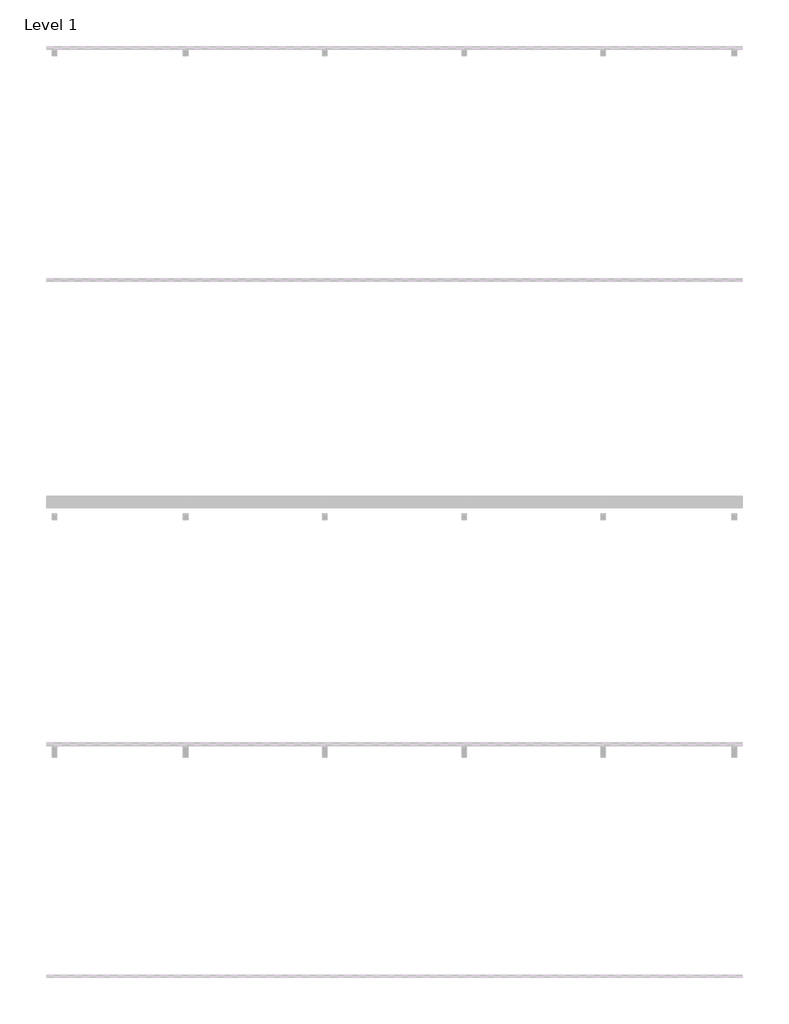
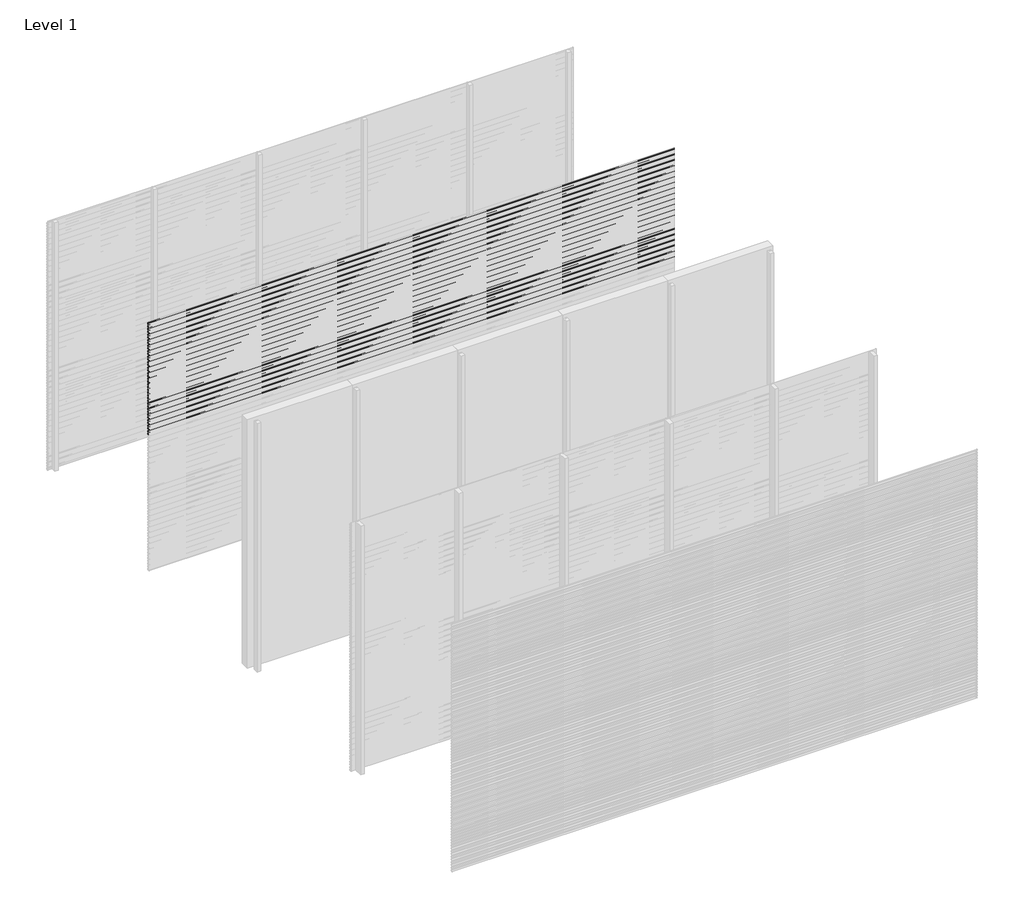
# One storey, part 33 of 77: 72 proxies.
"""IFC4 building model written with IfcOpenShell, lengths in millimetres."""

from ifc_helpers import new_model, si_unit, frame, origin, place, context, project, spatial, polyline, outline, extrude, element, save

model = new_model("IFC4")

# Units and contexts
model_context = context("Model", 3, world=origin())
ifc_project = project(units=[si_unit("LENGTHUNIT", "METRE", prefix="MILLI")], contexts=[model_context])

# Site, building, storey
site = spatial("IfcSite", under=ifc_project)
building = spatial("IfcBuilding", under=site)
storey = spatial("IfcBuildingStorey", under=building, Name="Level 1", Elevation=0.0)

# Proxies
placement = place(None, origin())
element("IfcBuildingElementProxy", 1, Name="Wall Sweeps", at=placement, inside=storey, context=model_context, shape_type="SweptSolid", body=[
    extrude(outline(polyline([(-31978.6, 2972.5359887), (-31998.0, 2983.7366691), (-31998.0, 2997.0), (-31997.0, 2997.0), (-31997.0, 2984.3191057), (-31977.6, 2973.1185105), (-31977.6, 2959.5185105), (-31978.6, 2961.0953129), (-31978.6, 2966.9032062), (-31995.9773817, 2958.8), (-31996.4, 2959.7063078), (-31978.6, 2968.0065841), (-31978.6, 2972.5359887)])), frame((0.0, 0.0, 0.0), z_axis=(1.0, 0.0, 0.0), x_axis=(0.0, 1.0, 0.0)), (0.0, 0.0, 1.0), 6000.0),
])
element("IfcBuildingElementProxy", 2, Name="Wall Sweeps", at=placement, inside=storey, context=model_context, shape_type="SweptSolid", body=[
    extrude(outline(polyline([(-31978.6, 2939.2359887), (-31998.0, 2950.4366691), (-31998.0, 2963.7), (-31997.0, 2963.7), (-31997.0, 2951.0191057), (-31977.6, 2939.8185105), (-31977.6, 2926.2185105), (-31978.6, 2927.7953129), (-31978.6, 2933.6032062), (-31995.9773817, 2925.5), (-31996.4, 2926.4063078), (-31978.6, 2934.7065841), (-31978.6, 2939.2359887)])), frame((0.0, 0.0, 0.0), z_axis=(1.0, 0.0, 0.0), x_axis=(0.0, 1.0, 0.0)), (0.0, 0.0, 1.0), 6000.0),
])
element("IfcBuildingElementProxy", 3, Name="Wall Sweeps", at=placement, inside=storey, context=model_context, shape_type="SweptSolid", body=[
    extrude(outline(polyline([(-31978.6, 2905.9359887), (-31998.0, 2917.1366691), (-31998.0, 2930.4), (-31997.0, 2930.4), (-31997.0, 2917.7191057), (-31977.6, 2906.5185105), (-31977.6, 2892.9185105), (-31978.6, 2894.4953129), (-31978.6, 2900.3032062), (-31995.9773817, 2892.2), (-31996.4, 2893.1063078), (-31978.6, 2901.4065841), (-31978.6, 2905.9359887)])), frame((0.0, 0.0, 0.0), z_axis=(1.0, 0.0, 0.0), x_axis=(0.0, 1.0, 0.0)), (0.0, 0.0, 1.0), 6000.0),
])
element("IfcBuildingElementProxy", 4, Name="Wall Sweeps", at=placement, inside=storey, context=model_context, shape_type="SweptSolid", body=[
    extrude(outline(polyline([(-31978.6, 2872.6359887), (-31998.0, 2883.8366691), (-31998.0, 2897.1), (-31997.0, 2897.1), (-31997.0, 2884.4191057), (-31977.6, 2873.2185105), (-31977.6, 2859.6185105), (-31978.6, 2861.1953129), (-31978.6, 2867.0032062), (-31995.9773817, 2858.9), (-31996.4, 2859.8063078), (-31978.6, 2868.1065841), (-31978.6, 2872.6359887)])), frame((0.0, 0.0, 0.0), z_axis=(1.0, 0.0, 0.0), x_axis=(0.0, 1.0, 0.0)), (0.0, 0.0, 1.0), 6000.0),
])
element("IfcBuildingElementProxy", 5, Name="Wall Sweeps", at=placement, inside=storey, context=model_context, shape_type="SweptSolid", body=[
    extrude(outline(polyline([(-31978.6, 2839.3359887), (-31998.0, 2850.5366691), (-31998.0, 2863.8), (-31997.0, 2863.8), (-31997.0, 2851.1191057), (-31977.6, 2839.9185105), (-31977.6, 2826.3185105), (-31978.6, 2827.8953129), (-31978.6, 2833.7032062), (-31995.9773817, 2825.6), (-31996.4, 2826.5063078), (-31978.6, 2834.8065841), (-31978.6, 2839.3359887)])), frame((0.0, 0.0, 0.0), z_axis=(1.0, 0.0, 0.0), x_axis=(0.0, 1.0, 0.0)), (0.0, 0.0, 1.0), 6000.0),
])
element("IfcBuildingElementProxy", 6, Name="Wall Sweeps", at=placement, inside=storey, context=model_context, shape_type="SweptSolid", body=[
    extrude(outline(polyline([(-31978.6, 2806.0359887), (-31998.0, 2817.2366691), (-31998.0, 2830.5), (-31997.0, 2830.5), (-31997.0, 2817.8191057), (-31977.6, 2806.6185105), (-31977.6, 2793.0185105), (-31978.6, 2794.5953129), (-31978.6, 2800.4032062), (-31995.9773817, 2792.3), (-31996.4, 2793.2063078), (-31978.6, 2801.5065841), (-31978.6, 2806.0359887)])), frame((0.0, 0.0, 0.0), z_axis=(1.0, 0.0, 0.0), x_axis=(0.0, 1.0, 0.0)), (0.0, 0.0, 1.0), 6000.0),
])
element("IfcBuildingElementProxy", 7, Name="Wall Sweeps", at=placement, inside=storey, context=model_context, shape_type="SweptSolid", body=[
    extrude(outline(polyline([(-31978.6, 2772.7359887), (-31998.0, 2783.9366691), (-31998.0, 2797.2), (-31997.0, 2797.2), (-31997.0, 2784.5191057), (-31977.6, 2773.3185105), (-31977.6, 2759.7185105), (-31978.6, 2761.2953129), (-31978.6, 2767.1032062), (-31995.9773817, 2759.0), (-31996.4, 2759.9063078), (-31978.6, 2768.2065841), (-31978.6, 2772.7359887)])), frame((0.0, 0.0, 0.0), z_axis=(1.0, 0.0, 0.0), x_axis=(0.0, 1.0, 0.0)), (0.0, 0.0, 1.0), 6000.0),
])
element("IfcBuildingElementProxy", 8, Name="Wall Sweeps", at=placement, inside=storey, context=model_context, shape_type="SweptSolid", body=[
    extrude(outline(polyline([(-31978.6, 2739.4359887), (-31998.0, 2750.6366691), (-31998.0, 2763.9), (-31997.0, 2763.9), (-31997.0, 2751.2191057), (-31977.6, 2740.0185105), (-31977.6, 2726.4185105), (-31978.6, 2727.9953129), (-31978.6, 2733.8032062), (-31995.9773817, 2725.7), (-31996.4, 2726.6063078), (-31978.6, 2734.9065841), (-31978.6, 2739.4359887)])), frame((0.0, 0.0, 0.0), z_axis=(1.0, 0.0, 0.0), x_axis=(0.0, 1.0, 0.0)), (0.0, 0.0, 1.0), 6000.0),
])
element("IfcBuildingElementProxy", 9, Name="Wall Sweeps", at=placement, inside=storey, context=model_context, shape_type="SweptSolid", body=[
    extrude(outline(polyline([(-31978.6, 2706.1359887), (-31998.0, 2717.3366691), (-31998.0, 2730.6), (-31997.0, 2730.6), (-31997.0, 2717.9191057), (-31977.6, 2706.7185105), (-31977.6, 2693.1185105), (-31978.6, 2694.6953129), (-31978.6, 2700.5032062), (-31995.9773817, 2692.4), (-31996.4, 2693.3063078), (-31978.6, 2701.6065841), (-31978.6, 2706.1359887)])), frame((0.0, 0.0, 0.0), z_axis=(1.0, 0.0, 0.0), x_axis=(0.0, 1.0, 0.0)), (0.0, 0.0, 1.0), 6000.0),
])
element("IfcBuildingElementProxy", 10, Name="Wall Sweeps", at=placement, inside=storey, context=model_context, shape_type="SweptSolid", body=[
    extrude(outline(polyline([(-31978.6, 2672.8359887), (-31998.0, 2684.0366691), (-31998.0, 2697.3), (-31997.0, 2697.3), (-31997.0, 2684.6191057), (-31977.6, 2673.4185105), (-31977.6, 2659.8185105), (-31978.6, 2661.3953129), (-31978.6, 2667.2032062), (-31995.9773817, 2659.1), (-31996.4, 2660.0063078), (-31978.6, 2668.3065841), (-31978.6, 2672.8359887)])), frame((0.0, 0.0, 0.0), z_axis=(1.0, 0.0, 0.0), x_axis=(0.0, 1.0, 0.0)), (0.0, 0.0, 1.0), 6000.0),
])
element("IfcBuildingElementProxy", 11, Name="Wall Sweeps", at=placement, inside=storey, context=model_context, shape_type="SweptSolid", body=[
    extrude(outline(polyline([(-31978.6, 2639.5359887), (-31998.0, 2650.7366691), (-31998.0, 2664.0), (-31997.0, 2664.0), (-31997.0, 2651.3191057), (-31977.6, 2640.1185105), (-31977.6, 2626.5185105), (-31978.6, 2628.0953129), (-31978.6, 2633.9032062), (-31995.9773817, 2625.8), (-31996.4, 2626.7063078), (-31978.6, 2635.0065841), (-31978.6, 2639.5359887)])), frame((0.0, 0.0, 0.0), z_axis=(1.0, 0.0, 0.0), x_axis=(0.0, 1.0, 0.0)), (0.0, 0.0, 1.0), 6000.0),
])
element("IfcBuildingElementProxy", 12, Name="Wall Sweeps", at=placement, inside=storey, context=model_context, shape_type="SweptSolid", body=[
    extrude(outline(polyline([(-31978.6, 2606.2359887), (-31998.0, 2617.4366691), (-31998.0, 2630.7), (-31997.0, 2630.7), (-31997.0, 2618.0191057), (-31977.6, 2606.8185105), (-31977.6, 2593.2185105), (-31978.6, 2594.7953129), (-31978.6, 2600.6032062), (-31995.9773817, 2592.5), (-31996.4, 2593.4063078), (-31978.6, 2601.7065841), (-31978.6, 2606.2359887)])), frame((0.0, 0.0, 0.0), z_axis=(1.0, 0.0, 0.0), x_axis=(0.0, 1.0, 0.0)), (0.0, 0.0, 1.0), 6000.0),
])
element("IfcBuildingElementProxy", 13, Name="Wall Sweeps", at=placement, inside=storey, context=model_context, shape_type="SweptSolid", body=[
    extrude(outline(polyline([(-31978.6, 2572.9359887), (-31998.0, 2584.1366691), (-31998.0, 2597.4), (-31997.0, 2597.4), (-31997.0, 2584.7191057), (-31977.6, 2573.5185105), (-31977.6, 2559.9185105), (-31978.6, 2561.4953129), (-31978.6, 2567.3032062), (-31995.9773817, 2559.2), (-31996.4, 2560.1063078), (-31978.6, 2568.4065841), (-31978.6, 2572.9359887)])), frame((0.0, 0.0, 0.0), z_axis=(1.0, 0.0, 0.0), x_axis=(0.0, 1.0, 0.0)), (0.0, 0.0, 1.0), 6000.0),
])
element("IfcBuildingElementProxy", 14, Name="Wall Sweeps", at=placement, inside=storey, context=model_context, shape_type="SweptSolid", body=[
    extrude(outline(polyline([(-31978.6, 2539.6359887), (-31998.0, 2550.8366691), (-31998.0, 2564.1), (-31997.0, 2564.1), (-31997.0, 2551.4191057), (-31977.6, 2540.2185105), (-31977.6, 2526.6185105), (-31978.6, 2528.1953129), (-31978.6, 2534.0032062), (-31995.9773817, 2525.9), (-31996.4, 2526.8063078), (-31978.6, 2535.1065841), (-31978.6, 2539.6359887)])), frame((0.0, 0.0, 0.0), z_axis=(1.0, 0.0, 0.0), x_axis=(0.0, 1.0, 0.0)), (0.0, 0.0, 1.0), 6000.0),
])
element("IfcBuildingElementProxy", 15, Name="Wall Sweeps", at=placement, inside=storey, context=model_context, shape_type="SweptSolid", body=[
    extrude(outline(polyline([(-31978.6, 2506.3359887), (-31998.0, 2517.5366691), (-31998.0, 2530.8), (-31997.0, 2530.8), (-31997.0, 2518.1191057), (-31977.6, 2506.9185105), (-31977.6, 2493.3185105), (-31978.6, 2494.8953129), (-31978.6, 2500.7032062), (-31995.9773817, 2492.6), (-31996.4, 2493.5063078), (-31978.6, 2501.8065841), (-31978.6, 2506.3359887)])), frame((0.0, 0.0, 0.0), z_axis=(1.0, 0.0, 0.0), x_axis=(0.0, 1.0, 0.0)), (0.0, 0.0, 1.0), 6000.0),
])
element("IfcBuildingElementProxy", 16, Name="Wall Sweeps", at=placement, inside=storey, context=model_context, shape_type="SweptSolid", body=[
    extrude(outline(polyline([(-31978.6, 2473.0359887), (-31998.0, 2484.2366691), (-31998.0, 2497.5), (-31997.0, 2497.5), (-31997.0, 2484.8191057), (-31977.6, 2473.6185105), (-31977.6, 2460.0185105), (-31978.6, 2461.5953129), (-31978.6, 2467.4032062), (-31995.9773817, 2459.3), (-31996.4, 2460.2063078), (-31978.6, 2468.5065841), (-31978.6, 2473.0359887)])), frame((0.0, 0.0, 0.0), z_axis=(1.0, 0.0, 0.0), x_axis=(0.0, 1.0, 0.0)), (0.0, 0.0, 1.0), 6000.0),
])
element("IfcBuildingElementProxy", 17, Name="Wall Sweeps", at=placement, inside=storey, context=model_context, shape_type="SweptSolid", body=[
    extrude(outline(polyline([(-31978.6, 2439.7359887), (-31998.0, 2450.9366691), (-31998.0, 2464.2), (-31997.0, 2464.2), (-31997.0, 2451.5191057), (-31977.6, 2440.3185105), (-31977.6, 2426.7185105), (-31978.6, 2428.2953129), (-31978.6, 2434.1032062), (-31995.9773817, 2426.0), (-31996.4, 2426.9063078), (-31978.6, 2435.2065841), (-31978.6, 2439.7359887)])), frame((0.0, 0.0, 0.0), z_axis=(1.0, 0.0, 0.0), x_axis=(0.0, 1.0, 0.0)), (0.0, 0.0, 1.0), 6000.0),
])
element("IfcBuildingElementProxy", 18, Name="Wall Sweeps", at=placement, inside=storey, context=model_context, shape_type="SweptSolid", body=[
    extrude(outline(polyline([(-31978.6, 2406.4359887), (-31998.0, 2417.6366691), (-31998.0, 2430.9), (-31997.0, 2430.9), (-31997.0, 2418.2191057), (-31977.6, 2407.0185105), (-31977.6, 2393.4185105), (-31978.6, 2394.9953129), (-31978.6, 2400.8032062), (-31995.9773817, 2392.7), (-31996.4, 2393.6063078), (-31978.6, 2401.9065841), (-31978.6, 2406.4359887)])), frame((0.0, 0.0, 0.0), z_axis=(1.0, 0.0, 0.0), x_axis=(0.0, 1.0, 0.0)), (0.0, 0.0, 1.0), 6000.0),
])
element("IfcBuildingElementProxy", 19, Name="Wall Sweeps", at=placement, inside=storey, context=model_context, shape_type="SweptSolid", body=[
    extrude(outline(polyline([(-31978.6, 2373.1359887), (-31998.0, 2384.3366691), (-31998.0, 2397.6), (-31997.0, 2397.6), (-31997.0, 2384.9191057), (-31977.6, 2373.7185105), (-31977.6, 2360.1185105), (-31978.6, 2361.6953129), (-31978.6, 2367.5032062), (-31995.9773817, 2359.4), (-31996.4, 2360.3063078), (-31978.6, 2368.6065841), (-31978.6, 2373.1359887)])), frame((0.0, 0.0, 0.0), z_axis=(1.0, 0.0, 0.0), x_axis=(0.0, 1.0, 0.0)), (0.0, 0.0, 1.0), 6000.0),
])
element("IfcBuildingElementProxy", 20, Name="Wall Sweeps", at=placement, inside=storey, context=model_context, shape_type="SweptSolid", body=[
    extrude(outline(polyline([(-31978.6, 2339.8359887), (-31998.0, 2351.0366691), (-31998.0, 2364.3), (-31997.0, 2364.3), (-31997.0, 2351.6191057), (-31977.6, 2340.4185105), (-31977.6, 2326.8185105), (-31978.6, 2328.3953129), (-31978.6, 2334.2032062), (-31995.9773817, 2326.1), (-31996.4, 2327.0063078), (-31978.6, 2335.3065841), (-31978.6, 2339.8359887)])), frame((0.0, 0.0, 0.0), z_axis=(1.0, 0.0, 0.0), x_axis=(0.0, 1.0, 0.0)), (0.0, 0.0, 1.0), 6000.0),
])
element("IfcBuildingElementProxy", 21, Name="Wall Sweeps", at=placement, inside=storey, context=model_context, shape_type="SweptSolid", body=[
    extrude(outline(polyline([(-31978.6, 2306.5359887), (-31998.0, 2317.7366691), (-31998.0, 2331.0), (-31997.0, 2331.0), (-31997.0, 2318.3191057), (-31977.6, 2307.1185105), (-31977.6, 2293.5185105), (-31978.6, 2295.0953129), (-31978.6, 2300.9032062), (-31995.9773817, 2292.8), (-31996.4, 2293.7063078), (-31978.6, 2302.0065841), (-31978.6, 2306.5359887)])), frame((0.0, 0.0, 0.0), z_axis=(1.0, 0.0, 0.0), x_axis=(0.0, 1.0, 0.0)), (0.0, 0.0, 1.0), 6000.0),
])
element("IfcBuildingElementProxy", 22, Name="Wall Sweeps", at=placement, inside=storey, context=model_context, shape_type="SweptSolid", body=[
    extrude(outline(polyline([(-31978.6, 2273.2359887), (-31998.0, 2284.4366691), (-31998.0, 2297.7), (-31997.0, 2297.7), (-31997.0, 2285.0191057), (-31977.6, 2273.8185105), (-31977.6, 2260.2185105), (-31978.6, 2261.7953129), (-31978.6, 2267.6032062), (-31995.9773817, 2259.5), (-31996.4, 2260.4063078), (-31978.6, 2268.7065841), (-31978.6, 2273.2359887)])), frame((0.0, 0.0, 0.0), z_axis=(1.0, 0.0, 0.0), x_axis=(0.0, 1.0, 0.0)), (0.0, 0.0, 1.0), 6000.0),
])
element("IfcBuildingElementProxy", 23, Name="Wall Sweeps", at=placement, inside=storey, context=model_context, shape_type="SweptSolid", body=[
    extrude(outline(polyline([(-31978.6, 2239.9359887), (-31998.0, 2251.1366691), (-31998.0, 2264.4), (-31997.0, 2264.4), (-31997.0, 2251.7191057), (-31977.6, 2240.5185105), (-31977.6, 2226.9185105), (-31978.6, 2228.4953129), (-31978.6, 2234.3032062), (-31995.9773817, 2226.2), (-31996.4, 2227.1063078), (-31978.6, 2235.4065841), (-31978.6, 2239.9359887)])), frame((0.0, 0.0, 0.0), z_axis=(1.0, 0.0, 0.0), x_axis=(0.0, 1.0, 0.0)), (0.0, 0.0, 1.0), 6000.0),
])
element("IfcBuildingElementProxy", 24, Name="Wall Sweeps", at=placement, inside=storey, context=model_context, shape_type="SweptSolid", body=[
    extrude(outline(polyline([(-31978.6, 2206.6359887), (-31998.0, 2217.8366691), (-31998.0, 2231.1), (-31997.0, 2231.1), (-31997.0, 2218.4191057), (-31977.6, 2207.2185105), (-31977.6, 2193.6185105), (-31978.6, 2195.1953129), (-31978.6, 2201.0032062), (-31995.9773817, 2192.9), (-31996.4, 2193.8063078), (-31978.6, 2202.1065841), (-31978.6, 2206.6359887)])), frame((0.0, 0.0, 0.0), z_axis=(1.0, 0.0, 0.0), x_axis=(0.0, 1.0, 0.0)), (0.0, 0.0, 1.0), 6000.0),
])
element("IfcBuildingElementProxy", 25, Name="Wall Sweeps", at=placement, inside=storey, context=model_context, shape_type="SweptSolid", body=[
    extrude(outline(polyline([(-31978.6, 2173.3359887), (-31998.0, 2184.5366691), (-31998.0, 2197.8), (-31997.0, 2197.8), (-31997.0, 2185.1191057), (-31977.6, 2173.9185105), (-31977.6, 2160.3185105), (-31978.6, 2161.8953129), (-31978.6, 2167.7032062), (-31995.9773817, 2159.6), (-31996.4, 2160.5063078), (-31978.6, 2168.8065841), (-31978.6, 2173.3359887)])), frame((0.0, 0.0, 0.0), z_axis=(1.0, 0.0, 0.0), x_axis=(0.0, 1.0, 0.0)), (0.0, 0.0, 1.0), 6000.0),
])
element("IfcBuildingElementProxy", 26, Name="Wall Sweeps", at=placement, inside=storey, context=model_context, shape_type="SweptSolid", body=[
    extrude(outline(polyline([(-31978.6, 2140.0359887), (-31998.0, 2151.2366691), (-31998.0, 2164.5), (-31997.0, 2164.5), (-31997.0, 2151.8191057), (-31977.6, 2140.6185105), (-31977.6, 2127.0185105), (-31978.6, 2128.5953129), (-31978.6, 2134.4032062), (-31995.9773817, 2126.3), (-31996.4, 2127.2063078), (-31978.6, 2135.5065841), (-31978.6, 2140.0359887)])), frame((0.0, 0.0, 0.0), z_axis=(1.0, 0.0, 0.0), x_axis=(0.0, 1.0, 0.0)), (0.0, 0.0, 1.0), 6000.0),
])
element("IfcBuildingElementProxy", 27, Name="Wall Sweeps", at=placement, inside=storey, context=model_context, shape_type="SweptSolid", body=[
    extrude(outline(polyline([(-31978.6, 2106.7359887), (-31998.0, 2117.9366691), (-31998.0, 2131.2), (-31997.0, 2131.2), (-31997.0, 2118.5191057), (-31977.6, 2107.3185105), (-31977.6, 2093.7185105), (-31978.6, 2095.2953129), (-31978.6, 2101.1032062), (-31995.9773817, 2093.0), (-31996.4, 2093.9063078), (-31978.6, 2102.2065841), (-31978.6, 2106.7359887)])), frame((0.0, 0.0, 0.0), z_axis=(1.0, 0.0, 0.0), x_axis=(0.0, 1.0, 0.0)), (0.0, 0.0, 1.0), 6000.0),
])
element("IfcBuildingElementProxy", 28, Name="Wall Sweeps", at=placement, inside=storey, context=model_context, shape_type="SweptSolid", body=[
    extrude(outline(polyline([(-31978.6, 2073.4359887), (-31998.0, 2084.6366691), (-31998.0, 2097.9), (-31997.0, 2097.9), (-31997.0, 2085.2191057), (-31977.6, 2074.0185105), (-31977.6, 2060.4185105), (-31978.6, 2061.9953129), (-31978.6, 2067.8032062), (-31995.9773817, 2059.7), (-31996.4, 2060.6063078), (-31978.6, 2068.9065841), (-31978.6, 2073.4359887)])), frame((0.0, 0.0, 0.0), z_axis=(1.0, 0.0, 0.0), x_axis=(0.0, 1.0, 0.0)), (0.0, 0.0, 1.0), 6000.0),
])
element("IfcBuildingElementProxy", 29, Name="Wall Sweeps", at=placement, inside=storey, context=model_context, shape_type="SweptSolid", body=[
    extrude(outline(polyline([(-31978.6, 2040.1359887), (-31998.0, 2051.3366691), (-31998.0, 2064.6), (-31997.0, 2064.6), (-31997.0, 2051.9191057), (-31977.6, 2040.7185105), (-31977.6, 2027.1185105), (-31978.6, 2028.6953129), (-31978.6, 2034.5032062), (-31995.9773817, 2026.4), (-31996.4, 2027.3063078), (-31978.6, 2035.6065841), (-31978.6, 2040.1359887)])), frame((0.0, 0.0, 0.0), z_axis=(1.0, 0.0, 0.0), x_axis=(0.0, 1.0, 0.0)), (0.0, 0.0, 1.0), 6000.0),
])
element("IfcBuildingElementProxy", 30, Name="Wall Sweeps", at=placement, inside=storey, context=model_context, shape_type="SweptSolid", body=[
    extrude(outline(polyline([(-31978.6, 2006.8359887), (-31998.0, 2018.0366691), (-31998.0, 2031.3), (-31997.0, 2031.3), (-31997.0, 2018.6191057), (-31977.6, 2007.4185105), (-31977.6, 1993.8185105), (-31978.6, 1995.3953129), (-31978.6, 2001.2032062), (-31995.9773817, 1993.1), (-31996.4, 1994.0063078), (-31978.6, 2002.3065841), (-31978.6, 2006.8359887)])), frame((0.0, 0.0, 0.0), z_axis=(1.0, 0.0, 0.0), x_axis=(0.0, 1.0, 0.0)), (0.0, 0.0, 1.0), 6000.0),
])
element("IfcBuildingElementProxy", 31, Name="Wall Sweeps", at=placement, inside=storey, context=model_context, shape_type="SweptSolid", body=[
    extrude(outline(polyline([(-31978.6, 1973.5359887), (-31998.0, 1984.7366691), (-31998.0, 1998.0), (-31997.0, 1998.0), (-31997.0, 1985.3191057), (-31977.6, 1974.1185105), (-31977.6, 1960.5185105), (-31978.6, 1962.0953129), (-31978.6, 1967.9032062), (-31995.9773817, 1959.8), (-31996.4, 1960.7063078), (-31978.6, 1969.0065841), (-31978.6, 1973.5359887)])), frame((0.0, 0.0, 0.0), z_axis=(1.0, 0.0, 0.0), x_axis=(0.0, 1.0, 0.0)), (0.0, 0.0, 1.0), 6000.0),
])
element("IfcBuildingElementProxy", 32, Name="Wall Sweeps", at=placement, inside=storey, context=model_context, shape_type="SweptSolid", body=[
    extrude(outline(polyline([(-31978.6, 1940.2359887), (-31998.0, 1951.4366691), (-31998.0, 1964.7), (-31997.0, 1964.7), (-31997.0, 1952.0191057), (-31977.6, 1940.8185105), (-31977.6, 1927.2185105), (-31978.6, 1928.7953129), (-31978.6, 1934.6032062), (-31995.9773817, 1926.5), (-31996.4, 1927.4063078), (-31978.6, 1935.7065841), (-31978.6, 1940.2359887)])), frame((0.0, 0.0, 0.0), z_axis=(1.0, 0.0, 0.0), x_axis=(0.0, 1.0, 0.0)), (0.0, 0.0, 1.0), 6000.0),
])
element("IfcBuildingElementProxy", 33, Name="Wall Sweeps", at=placement, inside=storey, context=model_context, shape_type="SweptSolid", body=[
    extrude(outline(polyline([(-31978.6, 1906.9359887), (-31998.0, 1918.1366691), (-31998.0, 1931.4), (-31997.0, 1931.4), (-31997.0, 1918.7191057), (-31977.6, 1907.5185105), (-31977.6, 1893.9185105), (-31978.6, 1895.4953129), (-31978.6, 1901.3032062), (-31995.9773817, 1893.2), (-31996.4, 1894.1063078), (-31978.6, 1902.4065841), (-31978.6, 1906.9359887)])), frame((0.0, 0.0, 0.0), z_axis=(1.0, 0.0, 0.0), x_axis=(0.0, 1.0, 0.0)), (0.0, 0.0, 1.0), 6000.0),
])
element("IfcBuildingElementProxy", 34, Name="Wall Sweeps", at=placement, inside=storey, context=model_context, shape_type="SweptSolid", body=[
    extrude(outline(polyline([(-31978.6, 1873.6359887), (-31998.0, 1884.8366691), (-31998.0, 1898.1), (-31997.0, 1898.1), (-31997.0, 1885.4191057), (-31977.6, 1874.2185105), (-31977.6, 1860.6185105), (-31978.6, 1862.1953129), (-31978.6, 1868.0032062), (-31995.9773817, 1859.9), (-31996.4, 1860.8063078), (-31978.6, 1869.1065841), (-31978.6, 1873.6359887)])), frame((0.0, 0.0, 0.0), z_axis=(1.0, 0.0, 0.0), x_axis=(0.0, 1.0, 0.0)), (0.0, 0.0, 1.0), 6000.0),
])
element("IfcBuildingElementProxy", 35, Name="Wall Sweeps", at=placement, inside=storey, context=model_context, shape_type="SweptSolid", body=[
    extrude(outline(polyline([(-31978.6, 1840.3359887), (-31998.0, 1851.5366691), (-31998.0, 1864.8), (-31997.0, 1864.8), (-31997.0, 1852.1191057), (-31977.6, 1840.9185105), (-31977.6, 1827.3185105), (-31978.6, 1828.8953129), (-31978.6, 1834.7032062), (-31995.9773817, 1826.6), (-31996.4, 1827.5063078), (-31978.6, 1835.8065841), (-31978.6, 1840.3359887)])), frame((0.0, 0.0, 0.0), z_axis=(1.0, 0.0, 0.0), x_axis=(0.0, 1.0, 0.0)), (0.0, 0.0, 1.0), 6000.0),
])
element("IfcBuildingElementProxy", 36, Name="Wall Sweeps", at=placement, inside=storey, context=model_context, shape_type="SweptSolid", body=[
    extrude(outline(polyline([(-31978.6, 1807.0359887), (-31998.0, 1818.2366691), (-31998.0, 1831.5), (-31997.0, 1831.5), (-31997.0, 1818.8191057), (-31977.6, 1807.6185105), (-31977.6, 1794.0185105), (-31978.6, 1795.5953129), (-31978.6, 1801.4032062), (-31995.9773817, 1793.3), (-31996.4, 1794.2063078), (-31978.6, 1802.5065841), (-31978.6, 1807.0359887)])), frame((0.0, 0.0, 0.0), z_axis=(1.0, 0.0, 0.0), x_axis=(0.0, 1.0, 0.0)), (0.0, 0.0, 1.0), 6000.0),
])
element("IfcBuildingElementProxy", 37, Name="Wall Sweeps", at=placement, inside=storey, context=model_context, shape_type="SweptSolid", body=[
    extrude(outline(polyline([(-31978.6, 1773.7359887), (-31998.0, 1784.9366691), (-31998.0, 1798.2), (-31997.0, 1798.2), (-31997.0, 1785.5191057), (-31977.6, 1774.3185105), (-31977.6, 1760.7185105), (-31978.6, 1762.2953129), (-31978.6, 1768.1032062), (-31995.9773817, 1760.0), (-31996.4, 1760.9063078), (-31978.6, 1769.2065841), (-31978.6, 1773.7359887)])), frame((0.0, 0.0, 0.0), z_axis=(1.0, 0.0, 0.0), x_axis=(0.0, 1.0, 0.0)), (0.0, 0.0, 1.0), 6000.0),
])
element("IfcBuildingElementProxy", 38, Name="Wall Sweeps", at=placement, inside=storey, context=model_context, shape_type="SweptSolid", body=[
    extrude(outline(polyline([(-31978.6, 1740.4359887), (-31998.0, 1751.6366691), (-31998.0, 1764.9), (-31997.0, 1764.9), (-31997.0, 1752.2191057), (-31977.6, 1741.0185105), (-31977.6, 1727.4185105), (-31978.6, 1728.9953129), (-31978.6, 1734.8032062), (-31995.9773817, 1726.7), (-31996.4, 1727.6063078), (-31978.6, 1735.9065841), (-31978.6, 1740.4359887)])), frame((0.0, 0.0, 0.0), z_axis=(1.0, 0.0, 0.0), x_axis=(0.0, 1.0, 0.0)), (0.0, 0.0, 1.0), 6000.0),
])
element("IfcBuildingElementProxy", 39, Name="Wall Sweeps", at=placement, inside=storey, context=model_context, shape_type="SweptSolid", body=[
    extrude(outline(polyline([(-31978.6, 1707.1359887), (-31998.0, 1718.3366691), (-31998.0, 1731.6), (-31997.0, 1731.6), (-31997.0, 1718.9191057), (-31977.6, 1707.7185105), (-31977.6, 1694.1185105), (-31978.6, 1695.6953129), (-31978.6, 1701.5032062), (-31995.9773817, 1693.4), (-31996.4, 1694.3063078), (-31978.6, 1702.6065841), (-31978.6, 1707.1359887)])), frame((0.0, 0.0, 0.0), z_axis=(1.0, 0.0, 0.0), x_axis=(0.0, 1.0, 0.0)), (0.0, 0.0, 1.0), 6000.0),
])
element("IfcBuildingElementProxy", 40, Name="Wall Sweeps", at=placement, inside=storey, context=model_context, shape_type="SweptSolid", body=[
    extrude(outline(polyline([(-31978.6, 1673.8359887), (-31998.0, 1685.0366691), (-31998.0, 1698.3), (-31997.0, 1698.3), (-31997.0, 1685.6191057), (-31977.6, 1674.4185105), (-31977.6, 1660.8185105), (-31978.6, 1662.3953129), (-31978.6, 1668.2032062), (-31995.9773817, 1660.1), (-31996.4, 1661.0063078), (-31978.6, 1669.3065841), (-31978.6, 1673.8359887)])), frame((0.0, 0.0, 0.0), z_axis=(1.0, 0.0, 0.0), x_axis=(0.0, 1.0, 0.0)), (0.0, 0.0, 1.0), 6000.0),
])
element("IfcBuildingElementProxy", 41, Name="Wall Sweeps", at=placement, inside=storey, context=model_context, shape_type="SweptSolid", body=[
    extrude(outline(polyline([(-31978.6, 1640.5359887), (-31998.0, 1651.7366691), (-31998.0, 1665.0), (-31997.0, 1665.0), (-31997.0, 1652.3191057), (-31977.6, 1641.1185105), (-31977.6, 1627.5185105), (-31978.6, 1629.0953129), (-31978.6, 1634.9032062), (-31995.9773817, 1626.8), (-31996.4, 1627.7063078), (-31978.6, 1636.0065841), (-31978.6, 1640.5359887)])), frame((0.0, 0.0, 0.0), z_axis=(1.0, 0.0, 0.0), x_axis=(0.0, 1.0, 0.0)), (0.0, 0.0, 1.0), 6000.0),
])
element("IfcBuildingElementProxy", 42, Name="Wall Sweeps", at=placement, inside=storey, context=model_context, shape_type="SweptSolid", body=[
    extrude(outline(polyline([(-35978.6, 1007.8359887), (-35998.0, 1019.0366691), (-35998.0, 1032.3), (-35997.0, 1032.3), (-35997.0, 1019.6191057), (-35977.6, 1008.4185105), (-35977.6, 994.8185105), (-35978.6, 996.3953129), (-35978.6, 1002.2032062), (-35995.9773817, 994.1), (-35996.4, 995.0063078), (-35978.6, 1003.3065841), (-35978.6, 1007.8359887)])), frame((4800.0, 0.0, 0.0), z_axis=(1.0, 0.0, 0.0), x_axis=(0.0, 1.0, 0.0)), (0.0, 0.0, 1.0), 1200.0),
])
element("IfcBuildingElementProxy", 43, Name="Wall Sweeps", at=placement, inside=storey, context=model_context, shape_type="SweptSolid", body=[
    extrude(outline(polyline([(-35978.6, 974.5359887), (-35998.0, 985.7366691), (-35998.0, 999.0), (-35997.0, 999.0), (-35997.0, 986.3191057), (-35977.6, 975.1185105), (-35977.6, 961.5185105), (-35978.6, 963.0953129), (-35978.6, 968.9032062), (-35995.9773817, 960.8), (-35996.4, 961.7063078), (-35978.6, 970.0065841), (-35978.6, 974.5359887)])), frame((4800.0, 0.0, 0.0), z_axis=(1.0, 0.0, 0.0), x_axis=(0.0, 1.0, 0.0)), (0.0, 0.0, 1.0), 1200.0),
])
element("IfcBuildingElementProxy", 44, Name="Wall Sweeps", at=placement, inside=storey, context=model_context, shape_type="SweptSolid", body=[
    extrude(outline(polyline([(-35978.6, 941.2359887), (-35998.0, 952.4366691), (-35998.0, 965.7), (-35997.0, 965.7), (-35997.0, 953.0191057), (-35977.6, 941.8185105), (-35977.6, 928.2185105), (-35978.6, 929.7953129), (-35978.6, 935.6032062), (-35995.9773817, 927.5), (-35996.4, 928.4063078), (-35978.6, 936.7065841), (-35978.6, 941.2359887)])), frame((4800.0, 0.0, 0.0), z_axis=(1.0, 0.0, 0.0), x_axis=(0.0, 1.0, 0.0)), (0.0, 0.0, 1.0), 1200.0),
])
element("IfcBuildingElementProxy", 45, Name="Wall Sweeps", at=placement, inside=storey, context=model_context, shape_type="SweptSolid", body=[
    extrude(outline(polyline([(-35978.6, 907.9359887), (-35998.0, 919.1366691), (-35998.0, 932.4), (-35997.0, 932.4), (-35997.0, 919.7191057), (-35977.6, 908.5185105), (-35977.6, 894.9185105), (-35978.6, 896.4953129), (-35978.6, 902.3032062), (-35995.9773817, 894.2), (-35996.4, 895.1063078), (-35978.6, 903.4065841), (-35978.6, 907.9359887)])), frame((4800.0, 0.0, 0.0), z_axis=(1.0, 0.0, 0.0), x_axis=(0.0, 1.0, 0.0)), (0.0, 0.0, 1.0), 1200.0),
])
element("IfcBuildingElementProxy", 46, Name="Wall Sweeps", at=placement, inside=storey, context=model_context, shape_type="SweptSolid", body=[
    extrude(outline(polyline([(-35978.6, 874.6359887), (-35998.0, 885.8366691), (-35998.0, 899.1), (-35997.0, 899.1), (-35997.0, 886.4191057), (-35977.6, 875.2185105), (-35977.6, 861.6185105), (-35978.6, 863.1953129), (-35978.6, 869.0032062), (-35995.9773817, 860.9), (-35996.4, 861.8063078), (-35978.6, 870.1065841), (-35978.6, 874.6359887)])), frame((4800.0, 0.0, 0.0), z_axis=(1.0, 0.0, 0.0), x_axis=(0.0, 1.0, 0.0)), (0.0, 0.0, 1.0), 1200.0),
])
element("IfcBuildingElementProxy", 47, Name="Wall Sweeps", at=placement, inside=storey, context=model_context, shape_type="SweptSolid", body=[
    extrude(outline(polyline([(-35978.6, 841.3359887), (-35998.0, 852.5366691), (-35998.0, 865.8), (-35997.0, 865.8), (-35997.0, 853.1191057), (-35977.6, 841.9185105), (-35977.6, 828.3185105), (-35978.6, 829.8953129), (-35978.6, 835.7032062), (-35995.9773817, 827.6), (-35996.4, 828.5063078), (-35978.6, 836.8065841), (-35978.6, 841.3359887)])), frame((4800.0, 0.0, 0.0), z_axis=(1.0, 0.0, 0.0), x_axis=(0.0, 1.0, 0.0)), (0.0, 0.0, 1.0), 1200.0),
])
element("IfcBuildingElementProxy", 48, Name="Wall Sweeps", at=placement, inside=storey, context=model_context, shape_type="SweptSolid", body=[
    extrude(outline(polyline([(-35978.6, 808.0359887), (-35998.0, 819.2366691), (-35998.0, 832.5), (-35997.0, 832.5), (-35997.0, 819.8191057), (-35977.6, 808.6185105), (-35977.6, 795.0185105), (-35978.6, 796.5953129), (-35978.6, 802.4032062), (-35995.9773817, 794.3), (-35996.4, 795.2063078), (-35978.6, 803.5065841), (-35978.6, 808.0359887)])), frame((4800.0, 0.0, 0.0), z_axis=(1.0, 0.0, 0.0), x_axis=(0.0, 1.0, 0.0)), (0.0, 0.0, 1.0), 1200.0),
])
element("IfcBuildingElementProxy", 49, Name="Wall Sweeps", at=placement, inside=storey, context=model_context, shape_type="SweptSolid", body=[
    extrude(outline(polyline([(-35978.6, 774.7359887), (-35998.0, 785.9366691), (-35998.0, 799.2), (-35997.0, 799.2), (-35997.0, 786.5191057), (-35977.6, 775.3185105), (-35977.6, 761.7185105), (-35978.6, 763.2953129), (-35978.6, 769.1032062), (-35995.9773817, 761.0), (-35996.4, 761.9063078), (-35978.6, 770.2065841), (-35978.6, 774.7359887)])), frame((4800.0, 0.0, 0.0), z_axis=(1.0, 0.0, 0.0), x_axis=(0.0, 1.0, 0.0)), (0.0, 0.0, 1.0), 1200.0),
])
element("IfcBuildingElementProxy", 50, Name="Wall Sweeps", at=placement, inside=storey, context=model_context, shape_type="SweptSolid", body=[
    extrude(outline(polyline([(-35978.6, 741.4359887), (-35998.0, 752.6366691), (-35998.0, 765.9), (-35997.0, 765.9), (-35997.0, 753.2191057), (-35977.6, 742.0185105), (-35977.6, 728.4185105), (-35978.6, 729.9953129), (-35978.6, 735.8032062), (-35995.9773817, 727.7), (-35996.4, 728.6063078), (-35978.6, 736.9065841), (-35978.6, 741.4359887)])), frame((4800.0, 0.0, 0.0), z_axis=(1.0, 0.0, 0.0), x_axis=(0.0, 1.0, 0.0)), (0.0, 0.0, 1.0), 1200.0),
])
element("IfcBuildingElementProxy", 51, Name="Wall Sweeps", at=placement, inside=storey, context=model_context, shape_type="SweptSolid", body=[
    extrude(outline(polyline([(-35978.6, 708.1359887), (-35998.0, 719.3366691), (-35998.0, 732.6), (-35997.0, 732.6), (-35997.0, 719.9191057), (-35977.6, 708.7185105), (-35977.6, 695.1185105), (-35978.6, 696.6953129), (-35978.6, 702.5032062), (-35995.9773817, 694.4), (-35996.4, 695.3063078), (-35978.6, 703.6065841), (-35978.6, 708.1359887)])), frame((4800.0, 0.0, 0.0), z_axis=(1.0, 0.0, 0.0), x_axis=(0.0, 1.0, 0.0)), (0.0, 0.0, 1.0), 1200.0),
])
element("IfcBuildingElementProxy", 52, Name="Wall Sweeps", at=placement, inside=storey, context=model_context, shape_type="SweptSolid", body=[
    extrude(outline(polyline([(-35978.6, 674.8359887), (-35998.0, 686.0366691), (-35998.0, 699.3), (-35997.0, 699.3), (-35997.0, 686.6191057), (-35977.6, 675.4185105), (-35977.6, 661.8185105), (-35978.6, 663.3953129), (-35978.6, 669.2032062), (-35995.9773817, 661.1), (-35996.4, 662.0063078), (-35978.6, 670.3065841), (-35978.6, 674.8359887)])), frame((4800.0, 0.0, 0.0), z_axis=(1.0, 0.0, 0.0), x_axis=(0.0, 1.0, 0.0)), (0.0, 0.0, 1.0), 1200.0),
])
element("IfcBuildingElementProxy", 53, Name="Wall Sweeps", at=placement, inside=storey, context=model_context, shape_type="SweptSolid", body=[
    extrude(outline(polyline([(-35978.6, 641.5359887), (-35998.0, 652.7366691), (-35998.0, 666.0), (-35997.0, 666.0), (-35997.0, 653.3191057), (-35977.6, 642.1185105), (-35977.6, 628.5185105), (-35978.6, 630.0953129), (-35978.6, 635.9032062), (-35995.9773817, 627.8), (-35996.4, 628.7063078), (-35978.6, 637.0065841), (-35978.6, 641.5359887)])), frame((4800.0, 0.0, 0.0), z_axis=(1.0, 0.0, 0.0), x_axis=(0.0, 1.0, 0.0)), (0.0, 0.0, 1.0), 1200.0),
])
element("IfcBuildingElementProxy", 54, Name="Wall Sweeps", at=placement, inside=storey, context=model_context, shape_type="SweptSolid", body=[
    extrude(outline(polyline([(-35978.6, 608.2359887), (-35998.0, 619.4366691), (-35998.0, 632.7), (-35997.0, 632.7), (-35997.0, 620.0191057), (-35977.6, 608.8185105), (-35977.6, 595.2185105), (-35978.6, 596.7953129), (-35978.6, 602.6032062), (-35995.9773817, 594.5), (-35996.4, 595.4063078), (-35978.6, 603.7065841), (-35978.6, 608.2359887)])), frame((4800.0, 0.0, 0.0), z_axis=(1.0, 0.0, 0.0), x_axis=(0.0, 1.0, 0.0)), (0.0, 0.0, 1.0), 1200.0),
])
element("IfcBuildingElementProxy", 55, Name="Wall Sweeps", at=placement, inside=storey, context=model_context, shape_type="SweptSolid", body=[
    extrude(outline(polyline([(-35978.6, 574.9359887), (-35998.0, 586.1366691), (-35998.0, 599.4), (-35997.0, 599.4), (-35997.0, 586.7191057), (-35977.6, 575.5185105), (-35977.6, 561.9185105), (-35978.6, 563.4953129), (-35978.6, 569.3032062), (-35995.9773817, 561.2), (-35996.4, 562.1063078), (-35978.6, 570.4065841), (-35978.6, 574.9359887)])), frame((4800.0, 0.0, 0.0), z_axis=(1.0, 0.0, 0.0), x_axis=(0.0, 1.0, 0.0)), (0.0, 0.0, 1.0), 1200.0),
])
element("IfcBuildingElementProxy", 56, Name="Wall Sweeps", at=placement, inside=storey, context=model_context, shape_type="SweptSolid", body=[
    extrude(outline(polyline([(-35978.6, 541.6359887), (-35998.0, 552.8366691), (-35998.0, 566.1), (-35997.0, 566.1), (-35997.0, 553.4191057), (-35977.6, 542.2185105), (-35977.6, 528.6185105), (-35978.6, 530.1953129), (-35978.6, 536.0032062), (-35995.9773817, 527.9), (-35996.4, 528.8063078), (-35978.6, 537.1065841), (-35978.6, 541.6359887)])), frame((4800.0, 0.0, 0.0), z_axis=(1.0, 0.0, 0.0), x_axis=(0.0, 1.0, 0.0)), (0.0, 0.0, 1.0), 1200.0),
])
element("IfcBuildingElementProxy", 57, Name="Wall Sweeps", at=placement, inside=storey, context=model_context, shape_type="SweptSolid", body=[
    extrude(outline(polyline([(-35978.6, 508.3359887), (-35998.0, 519.5366691), (-35998.0, 532.8), (-35997.0, 532.8), (-35997.0, 520.1191057), (-35977.6, 508.9185105), (-35977.6, 495.3185105), (-35978.6, 496.8953129), (-35978.6, 502.7032062), (-35995.9773817, 494.6), (-35996.4, 495.5063078), (-35978.6, 503.8065841), (-35978.6, 508.3359887)])), frame((4800.0, 0.0, 0.0), z_axis=(1.0, 0.0, 0.0), x_axis=(0.0, 1.0, 0.0)), (0.0, 0.0, 1.0), 1200.0),
])
element("IfcBuildingElementProxy", 58, Name="Wall Sweeps", at=placement, inside=storey, context=model_context, shape_type="SweptSolid", body=[
    extrude(outline(polyline([(-35978.6, 475.0359887), (-35998.0, 486.2366691), (-35998.0, 499.5), (-35997.0, 499.5), (-35997.0, 486.8191057), (-35977.6, 475.6185105), (-35977.6, 462.0185105), (-35978.6, 463.5953129), (-35978.6, 469.4032062), (-35995.9773817, 461.3), (-35996.4, 462.2063078), (-35978.6, 470.5065841), (-35978.6, 475.0359887)])), frame((4800.0, 0.0, 0.0), z_axis=(1.0, 0.0, 0.0), x_axis=(0.0, 1.0, 0.0)), (0.0, 0.0, 1.0), 1200.0),
])
element("IfcBuildingElementProxy", 59, Name="Wall Sweeps", at=placement, inside=storey, context=model_context, shape_type="SweptSolid", body=[
    extrude(outline(polyline([(-35978.6, 441.7359887), (-35998.0, 452.9366691), (-35998.0, 466.2), (-35997.0, 466.2), (-35997.0, 453.5191057), (-35977.6, 442.3185105), (-35977.6, 428.7185105), (-35978.6, 430.2953129), (-35978.6, 436.1032062), (-35995.9773817, 428.0), (-35996.4, 428.9063078), (-35978.6, 437.2065841), (-35978.6, 441.7359887)])), frame((4800.0, 0.0, 0.0), z_axis=(1.0, 0.0, 0.0), x_axis=(0.0, 1.0, 0.0)), (0.0, 0.0, 1.0), 1200.0),
])
element("IfcBuildingElementProxy", 60, Name="Wall Sweeps", at=placement, inside=storey, context=model_context, shape_type="SweptSolid", body=[
    extrude(outline(polyline([(-35978.6, 408.4359887), (-35998.0, 419.6366691), (-35998.0, 432.9), (-35997.0, 432.9), (-35997.0, 420.2191057), (-35977.6, 409.0185105), (-35977.6, 395.4185105), (-35978.6, 396.9953129), (-35978.6, 402.8032062), (-35995.9773817, 394.7), (-35996.4, 395.6063078), (-35978.6, 403.9065841), (-35978.6, 408.4359887)])), frame((4800.0, 0.0, 0.0), z_axis=(1.0, 0.0, 0.0), x_axis=(0.0, 1.0, 0.0)), (0.0, 0.0, 1.0), 1200.0),
])
element("IfcBuildingElementProxy", 61, Name="Wall Sweeps", at=placement, inside=storey, context=model_context, shape_type="SweptSolid", body=[
    extrude(outline(polyline([(-35978.6, 375.1359887), (-35998.0, 386.3366691), (-35998.0, 399.6), (-35997.0, 399.6), (-35997.0, 386.9191057), (-35977.6, 375.7185105), (-35977.6, 362.1185105), (-35978.6, 363.6953129), (-35978.6, 369.5032062), (-35995.9773817, 361.4), (-35996.4, 362.3063078), (-35978.6, 370.6065841), (-35978.6, 375.1359887)])), frame((4800.0, 0.0, 0.0), z_axis=(1.0, 0.0, 0.0), x_axis=(0.0, 1.0, 0.0)), (0.0, 0.0, 1.0), 1200.0),
])
element("IfcBuildingElementProxy", 62, Name="Wall Sweeps", at=placement, inside=storey, context=model_context, shape_type="SweptSolid", body=[
    extrude(outline(polyline([(-35978.6, 341.8359887), (-35998.0, 353.0366691), (-35998.0, 366.3), (-35997.0, 366.3), (-35997.0, 353.6191057), (-35977.6, 342.4185105), (-35977.6, 328.8185105), (-35978.6, 330.3953129), (-35978.6, 336.2032062), (-35995.9773817, 328.1), (-35996.4, 329.0063078), (-35978.6, 337.3065841), (-35978.6, 341.8359887)])), frame((4800.0, 0.0, 0.0), z_axis=(1.0, 0.0, 0.0), x_axis=(0.0, 1.0, 0.0)), (0.0, 0.0, 1.0), 1200.0),
])
element("IfcBuildingElementProxy", 63, Name="Wall Sweeps", at=placement, inside=storey, context=model_context, shape_type="SweptSolid", body=[
    extrude(outline(polyline([(-35978.6, 308.5359887), (-35998.0, 319.7366691), (-35998.0, 333.0), (-35997.0, 333.0), (-35997.0, 320.3191057), (-35977.6, 309.1185105), (-35977.6, 295.5185105), (-35978.6, 297.0953129), (-35978.6, 302.9032062), (-35995.9773817, 294.8), (-35996.4, 295.7063078), (-35978.6, 304.0065841), (-35978.6, 308.5359887)])), frame((4800.0, 0.0, 0.0), z_axis=(1.0, 0.0, 0.0), x_axis=(0.0, 1.0, 0.0)), (0.0, 0.0, 1.0), 1200.0),
])
element("IfcBuildingElementProxy", 64, Name="Wall Sweeps", at=placement, inside=storey, context=model_context, shape_type="SweptSolid", body=[
    extrude(outline(polyline([(-35978.6, 275.2359887), (-35998.0, 286.4366691), (-35998.0, 299.7), (-35997.0, 299.7), (-35997.0, 287.0191057), (-35977.6, 275.8185105), (-35977.6, 262.2185105), (-35978.6, 263.7953129), (-35978.6, 269.6032062), (-35995.9773817, 261.5), (-35996.4, 262.4063078), (-35978.6, 270.7065841), (-35978.6, 275.2359887)])), frame((4800.0, 0.0, 0.0), z_axis=(1.0, 0.0, 0.0), x_axis=(0.0, 1.0, 0.0)), (0.0, 0.0, 1.0), 1200.0),
])
element("IfcBuildingElementProxy", 65, Name="Wall Sweeps", at=placement, inside=storey, context=model_context, shape_type="SweptSolid", body=[
    extrude(outline(polyline([(-35978.6, 241.9359887), (-35998.0, 253.1366691), (-35998.0, 266.4), (-35997.0, 266.4), (-35997.0, 253.7191057), (-35977.6, 242.5185105), (-35977.6, 228.9185105), (-35978.6, 230.4953129), (-35978.6, 236.3032062), (-35995.9773817, 228.2), (-35996.4, 229.1063078), (-35978.6, 237.4065841), (-35978.6, 241.9359887)])), frame((4800.0, 0.0, 0.0), z_axis=(1.0, 0.0, 0.0), x_axis=(0.0, 1.0, 0.0)), (0.0, 0.0, 1.0), 1200.0),
])
element("IfcBuildingElementProxy", 66, Name="Wall Sweeps", at=placement, inside=storey, context=model_context, shape_type="SweptSolid", body=[
    extrude(outline(polyline([(-35978.6, 208.6359887), (-35998.0, 219.8366691), (-35998.0, 233.1), (-35997.0, 233.1), (-35997.0, 220.4191057), (-35977.6, 209.2185105), (-35977.6, 195.6185105), (-35978.6, 197.1953129), (-35978.6, 203.0032062), (-35995.9773817, 194.9), (-35996.4, 195.8063078), (-35978.6, 204.1065841), (-35978.6, 208.6359887)])), frame((4800.0, 0.0, 0.0), z_axis=(1.0, 0.0, 0.0), x_axis=(0.0, 1.0, 0.0)), (0.0, 0.0, 1.0), 1200.0),
])
element("IfcBuildingElementProxy", 67, Name="Wall Sweeps", at=placement, inside=storey, context=model_context, shape_type="SweptSolid", body=[
    extrude(outline(polyline([(-35978.6, 175.3359887), (-35998.0, 186.5366691), (-35998.0, 199.8), (-35997.0, 199.8), (-35997.0, 187.1191057), (-35977.6, 175.9185105), (-35977.6, 162.3185105), (-35978.6, 163.8953129), (-35978.6, 169.7032062), (-35995.9773817, 161.6), (-35996.4, 162.5063078), (-35978.6, 170.8065841), (-35978.6, 175.3359887)])), frame((4800.0, 0.0, 0.0), z_axis=(1.0, 0.0, 0.0), x_axis=(0.0, 1.0, 0.0)), (0.0, 0.0, 1.0), 1200.0),
])
element("IfcBuildingElementProxy", 68, Name="Wall Sweeps", at=placement, inside=storey, context=model_context, shape_type="SweptSolid", body=[
    extrude(outline(polyline([(-35978.6, 142.0359887), (-35998.0, 153.2366691), (-35998.0, 166.5), (-35997.0, 166.5), (-35997.0, 153.8191057), (-35977.6, 142.6185105), (-35977.6, 129.0185105), (-35978.6, 130.5953129), (-35978.6, 136.4032062), (-35995.9773817, 128.3), (-35996.4, 129.2063078), (-35978.6, 137.5065841), (-35978.6, 142.0359887)])), frame((4800.0, 0.0, 0.0), z_axis=(1.0, 0.0, 0.0), x_axis=(0.0, 1.0, 0.0)), (0.0, 0.0, 1.0), 1200.0),
])
element("IfcBuildingElementProxy", 69, Name="Wall Sweeps", at=placement, inside=storey, context=model_context, shape_type="SweptSolid", body=[
    extrude(outline(polyline([(-35978.6, 108.7359887), (-35998.0, 119.9366691), (-35998.0, 133.2), (-35997.0, 133.2), (-35997.0, 120.5191057), (-35977.6, 109.3185105), (-35977.6, 95.7185105), (-35978.6, 97.2953129), (-35978.6, 103.1032062), (-35995.9773817, 95.0), (-35996.4, 95.9063078), (-35978.6, 104.2065841), (-35978.6, 108.7359887)])), frame((4800.0, 0.0, 0.0), z_axis=(1.0, 0.0, 0.0), x_axis=(0.0, 1.0, 0.0)), (0.0, 0.0, 1.0), 1200.0),
])
element("IfcBuildingElementProxy", 70, Name="Wall Sweeps", at=placement, inside=storey, context=model_context, shape_type="SweptSolid", body=[
    extrude(outline(polyline([(-35978.6, 75.4359887), (-35998.0, 86.6366691), (-35998.0, 99.9), (-35997.0, 99.9), (-35997.0, 87.2191057), (-35977.6, 76.0185105), (-35977.6, 62.4185105), (-35978.6, 63.9953129), (-35978.6, 69.8032062), (-35995.9773817, 61.7), (-35996.4, 62.6063078), (-35978.6, 70.9065841), (-35978.6, 75.4359887)])), frame((4800.0, 0.0, 0.0), z_axis=(1.0, 0.0, 0.0), x_axis=(0.0, 1.0, 0.0)), (0.0, 0.0, 1.0), 1200.0),
])
element("IfcBuildingElementProxy", 71, Name="Wall Sweeps", at=placement, inside=storey, context=model_context, shape_type="SweptSolid", body=[
    extrude(outline(polyline([(-35978.6, 42.1359887), (-35998.0, 53.3366691), (-35998.0, 66.6), (-35997.0, 66.6), (-35997.0, 53.9191057), (-35977.6, 42.7185105), (-35977.6, 29.1185105), (-35978.6, 30.6953129), (-35978.6, 36.5032062), (-35995.9773817, 28.4), (-35996.4, 29.3063078), (-35978.6, 37.6065841), (-35978.6, 42.1359887)])), frame((4800.0, 0.0, 0.0), z_axis=(1.0, 0.0, 0.0), x_axis=(0.0, 1.0, 0.0)), (0.0, 0.0, 1.0), 1200.0),
])
element("IfcBuildingElementProxy", 72, Name="Wall Sweeps", at=placement, inside=storey, context=model_context, shape_type="SweptSolid", body=[
    extrude(outline(polyline([(-35978.6, 8.8359887), (-35998.0, 20.0366691), (-35998.0, 33.3), (-35997.0, 33.3), (-35997.0, 20.6191057), (-35977.6, 9.4185105), (-35977.6, -4.1814895), (-35978.6, -2.6046871), (-35978.6, 3.2032062), (-35995.9773817, -4.9), (-35996.4, -3.9936922), (-35978.6, 4.3065841), (-35978.6, 8.8359887)])), frame((4800.0, 0.0, 0.0), z_axis=(1.0, 0.0, 0.0), x_axis=(0.0, 1.0, 0.0)), (0.0, 0.0, 1.0), 1200.0),
])

save(model, "model.ifc")
